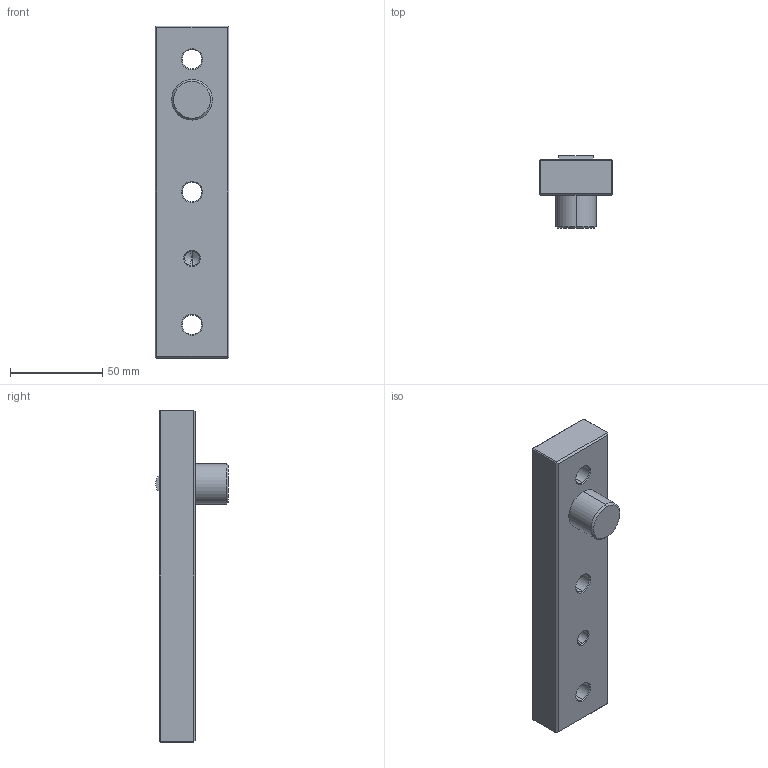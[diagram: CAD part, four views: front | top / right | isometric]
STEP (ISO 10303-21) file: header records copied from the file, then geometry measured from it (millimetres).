
FILE_DESCRIPTION (( 'STEP AP203' ), '1' );
FILE_NAME ('PRI40180.STEP', '2010-11-03T10:12:39', ( ' ' ), ( ' ' ), 'SwSTEP 2.0', 'SolidWorks 2005204', '' );
FILE_SCHEMA (( 'CONFIG_CONTROL_DESIGN' ));
Length unit declared in the file: millimetre
Products named in the file (1): PRI40180
Bounding box: 40 x 39.5 x 180 mm (x, y, z)
Volume: 136837 mm3; surface area: 26175.4 mm2
Topology: 1 solids, 1 shells, 63 faces, 138 edges, 81 vertices
Faces by surface type: plane 28, cone 18, cylinder 17
Entity records: 1777 total; most frequent: DIRECTION 314, CARTESIAN_POINT 281, ORIENTED_EDGE 272, EDGE_CURVE 136, AXIS2_PLACEMENT_3D 114, LINE 86, VECTOR 86, VERTEX_POINT 81
